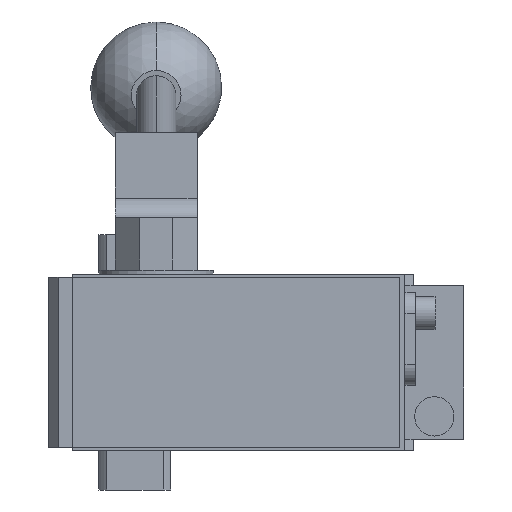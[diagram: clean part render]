
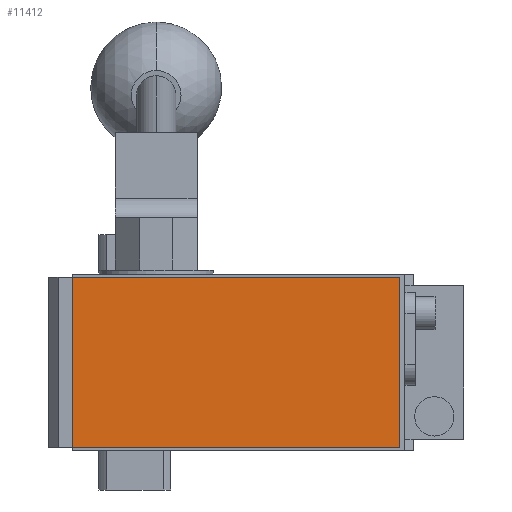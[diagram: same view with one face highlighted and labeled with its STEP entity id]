
A CAD part, front view. The second image highlights one B-rep face of the part: STEP entity #11412.
In plain terms, the highlighted planar face has unit normal (0, -1, 0).
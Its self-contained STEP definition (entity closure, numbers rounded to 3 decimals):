
#24 = VECTOR ( 'NONE', #5705, 1000. ) ;
#239 = FACE_OUTER_BOUND ( 'NONE', #8177, .T. ) ;
#391 = AXIS2_PLACEMENT_3D ( 'NONE', #6397, #3684, #10649 ) ;
#498 = CARTESIAN_POINT ( 'NONE',  ( 81., -286.5, 26. ) ) ;
#523 = CARTESIAN_POINT ( 'NONE',  ( -19., -286.5, 26. ) ) ;
#585 = VECTOR ( 'NONE', #1898, 1000. ) ;
#1122 = ORIENTED_EDGE ( 'NONE', *, *, #7690, .T. ) ;
#1400 = LINE ( 'NONE', #498, #10241 ) ;
#1898 = DIRECTION ( 'NONE',  ( 1., 0., 0. ) ) ;
#2633 = CARTESIAN_POINT ( 'NONE',  ( -19., -286.5, -26. ) ) ;
#2996 = VERTEX_POINT ( 'NONE', #2633 ) ;
#3662 = CARTESIAN_POINT ( 'NONE',  ( 81., -286.5, -26. ) ) ;
#3684 = DIRECTION ( 'NONE',  ( 0., -1., 0. ) ) ;
#3795 = ORIENTED_EDGE ( 'NONE', *, *, #6768, .T. ) ;
#4258 = CARTESIAN_POINT ( 'NONE',  ( -19., -286.5, 26. ) ) ;
#4681 = CARTESIAN_POINT ( 'NONE',  ( 81., -286.5, 26. ) ) ;
#4812 = EDGE_CURVE ( 'NONE', #6237, #2996, #10081, .T. ) ;
#4813 = EDGE_CURVE ( 'NONE', #2996, #5377, #8843, .T. ) ;
#5377 = VERTEX_POINT ( 'NONE', #3662 ) ;
#5705 = DIRECTION ( 'NONE',  ( 0., 0., -1. ) ) ;
#6023 = DIRECTION ( 'NONE',  ( -1., 0., 0. ) ) ;
#6237 = VERTEX_POINT ( 'NONE', #523 ) ;
#6397 = CARTESIAN_POINT ( 'NONE',  ( 0., -286.5, 0. ) ) ;
#6524 = PLANE ( 'NONE',  #391 ) ;
#6768 = EDGE_CURVE ( 'NONE', #5377, #9719, #1400, .T. ) ;
#7690 = EDGE_CURVE ( 'NONE', #9719, #6237, #9322, .T. ) ;
#7854 = DIRECTION ( 'NONE',  ( 0., 0., 1. ) ) ;
#8177 = EDGE_LOOP ( 'NONE', ( #10467, #9668, #3795, #1122 ) ) ;
#8843 = LINE ( 'NONE', #9754, #585 ) ;
#9322 = LINE ( 'NONE', #4258, #10637 ) ;
#9668 = ORIENTED_EDGE ( 'NONE', *, *, #4813, .T. ) ;
#9719 = VERTEX_POINT ( 'NONE', #4681 ) ;
#9754 = CARTESIAN_POINT ( 'NONE',  ( -19., -286.5, -26. ) ) ;
#10025 = CARTESIAN_POINT ( 'NONE',  ( -19., -286.5, 26. ) ) ;
#10081 = LINE ( 'NONE', #10025, #24 ) ;
#10241 = VECTOR ( 'NONE', #7854, 1000. ) ;
#10467 = ORIENTED_EDGE ( 'NONE', *, *, #4812, .T. ) ;
#10637 = VECTOR ( 'NONE', #6023, 1000. ) ;
#10649 = DIRECTION ( 'NONE',  ( 0., 0., -1. ) ) ;
#11412 = ADVANCED_FACE ( 'NONE', ( #239 ), #6524, .T. ) ;
